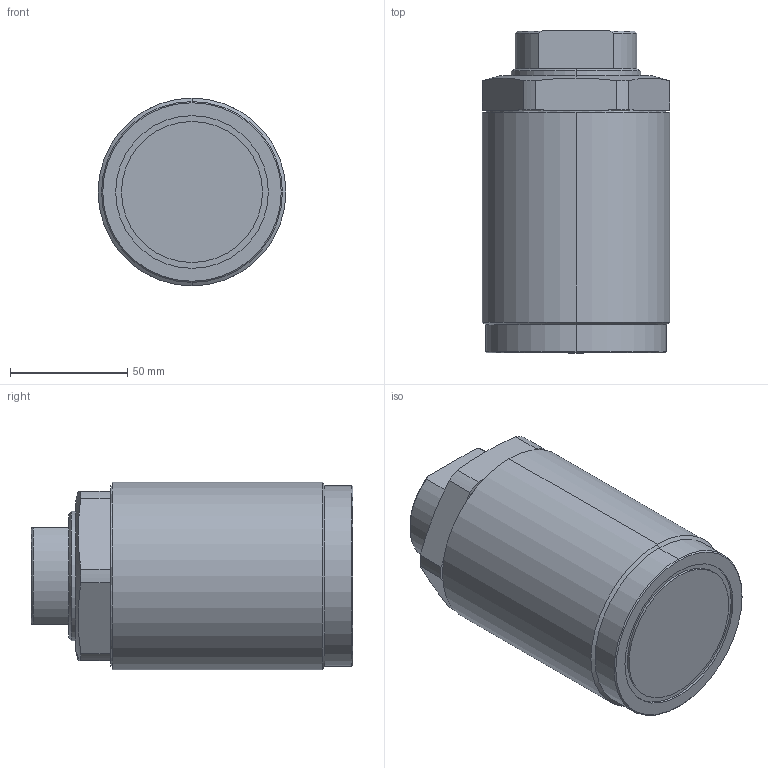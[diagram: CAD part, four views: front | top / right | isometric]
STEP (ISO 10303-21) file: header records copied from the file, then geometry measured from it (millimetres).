
FILE_DESCRIPTION (( 'STEP AP203' ), '1' );
FILE_NAME ('T03C-M808-L threaded pushe.STEP', '2022-07-09T17:47:57', ( '' ), ( '' ), 'SwSTEP 2.0', 'SolidWorks 2017', '' );
FILE_SCHEMA (( 'CONFIG_CONTROL_DESIGN' ));
Length unit declared in the file: millimetre
Products named in the file (3): T03C-M808-L part-1; T03C-M808-L part-2; T03C-M808-L threaded pushe
Assembly tree (2 placements, depth 2):
  T03C-M808-L threaded pushe
    T03C-M808-L part-1
    T03C-M808-L part-2
Bounding box: 80 x 137 x 80 mm (x, y, z)
Volume: 754985.6 mm3; surface area: 58937.6 mm2
Topology: 2 solids, 2 shells, 261 faces, 679 edges, 447 vertices
Faces by surface type: plane 116, bspline 105, cylinder 22, cone 18
Entity records: 13862 total; most frequent: CARTESIAN_POINT 7937, ORIENTED_EDGE 1354, DIRECTION 801, EDGE_CURVE 677, VERTEX_POINT 447, LINE 347, VECTOR 347, EDGE_LOOP 288
